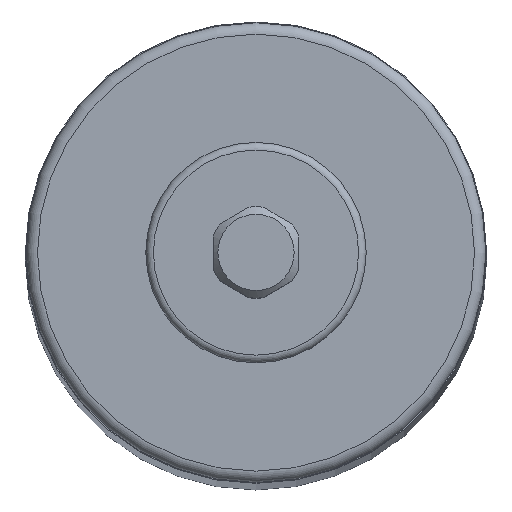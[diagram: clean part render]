
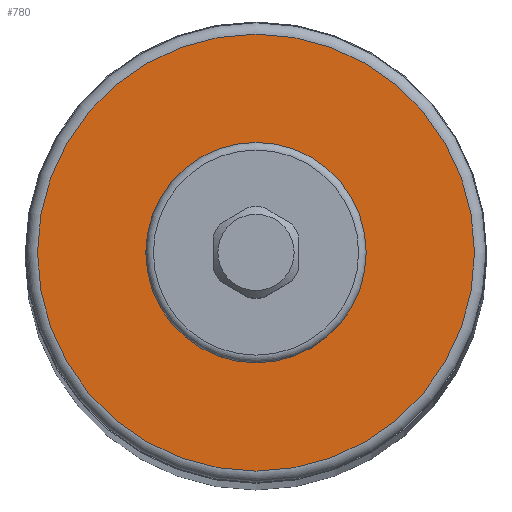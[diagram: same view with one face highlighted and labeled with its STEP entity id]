
A CAD part, top view. The second image highlights one B-rep face of the part: STEP entity #780.
In plain terms, the highlighted planar face has unit normal (0, 0, 1).
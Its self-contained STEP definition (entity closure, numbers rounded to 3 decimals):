
#21=FACE_BOUND('',#198,.T.);
#55=PLANE('',#877);
#95=CIRCLE('',#875,28.65);
#97=CIRCLE('',#878,14.45);
#147=FACE_OUTER_BOUND('',#197,.T.);
#197=EDGE_LOOP('',(#649));
#198=EDGE_LOOP('',(#650));
#374=VERTEX_POINT('',#1426);
#375=VERTEX_POINT('',#1430);
#477=EDGE_CURVE('',#374,#374,#95,.T.);
#479=EDGE_CURVE('',#375,#375,#97,.T.);
#649=ORIENTED_EDGE('',*,*,#477,.T.);
#650=ORIENTED_EDGE('',*,*,#479,.F.);
#780=ADVANCED_FACE('',(#147,#21),#55,.T.);
#875=AXIS2_PLACEMENT_3D('',#1427,#1085,#1086);
#877=AXIS2_PLACEMENT_3D('',#1429,#1089,#1090);
#878=AXIS2_PLACEMENT_3D('',#1431,#1091,#1092);
#1085=DIRECTION('center_axis',(0.,0.,1.));
#1086=DIRECTION('ref_axis',(0.,-1.,0.));
#1089=DIRECTION('center_axis',(0.,0.,1.));
#1090=DIRECTION('ref_axis',(1.,0.,0.));
#1091=DIRECTION('center_axis',(0.,0.,1.));
#1092=DIRECTION('ref_axis',(0.,-1.,0.));
#1426=CARTESIAN_POINT('',(-28.65,0.,3.));
#1427=CARTESIAN_POINT('Origin',(0.,0.,3.));
#1429=CARTESIAN_POINT('Origin',(0.,-21.55,3.));
#1430=CARTESIAN_POINT('',(0.,14.45,3.));
#1431=CARTESIAN_POINT('Origin',(0.,0.,3.));
